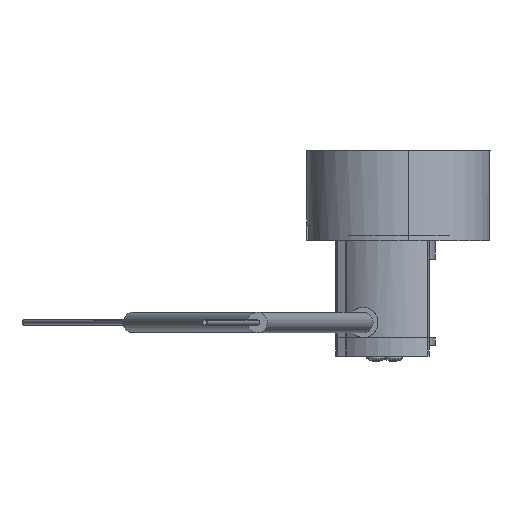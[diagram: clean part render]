
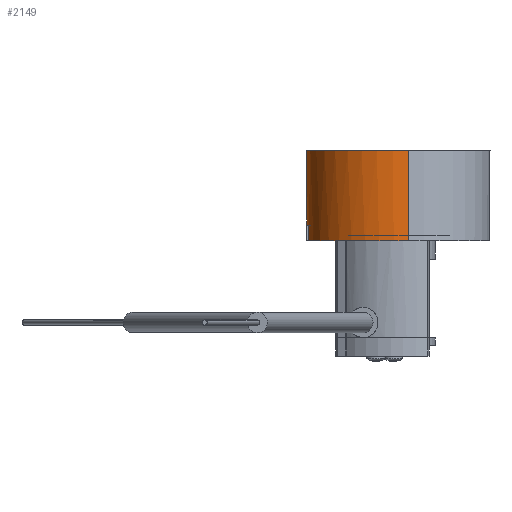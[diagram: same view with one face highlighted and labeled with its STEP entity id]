
A CAD part, left-side view. The second image highlights one B-rep face of the part: STEP entity #2149.
In plain terms, the highlighted cylindrical face has radius 17.5 mm (diameter 35 mm), a partial arc.
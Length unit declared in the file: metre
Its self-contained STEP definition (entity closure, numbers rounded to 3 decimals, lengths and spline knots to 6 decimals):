
#346 = AXIS2_PLACEMENT_3D ( 'NONE', #554, #3847, #3421 ) ;
#554 = CARTESIAN_POINT ( 'NONE',  ( 0., 0., 0. ) ) ;
#578 = CARTESIAN_POINT ( 'NONE',  ( 0., 0., 0.0142 ) ) ;
#595 = DIRECTION ( 'NONE',  ( -1., 0., 0. ) ) ;
#602 = DIRECTION ( 'NONE',  ( 0., 0., 1. ) ) ;
#643 = CARTESIAN_POINT ( 'NONE',  ( 0.0175, 0., 0. ) ) ;
#684 = CIRCLE ( 'NONE', #346, 0.0175 ) ;
#697 = CARTESIAN_POINT ( 'NONE',  ( 0., 0., 0.0172 ) ) ;
#719 = CARTESIAN_POINT ( 'NONE',  ( -0.0019, 0.017397, 0.0172 ) ) ;
#777 = VERTEX_POINT ( 'NONE', #4798 ) ;
#842 = VERTEX_POINT ( 'NONE', #719 ) ;
#905 = ORIENTED_EDGE ( 'NONE', *, *, #4023, .F. ) ;
#1187 = DIRECTION ( 'NONE',  ( 0., 0., 1. ) ) ;
#1326 = ORIENTED_EDGE ( 'NONE', *, *, #4640, .F. ) ;
#1365 = VERTEX_POINT ( 'NONE', #3466 ) ;
#1401 = VERTEX_POINT ( 'NONE', #5073 ) ;
#1413 = VECTOR ( 'NONE', #2955, 1. ) ;
#1431 = ORIENTED_EDGE ( 'NONE', *, *, #3006, .F. ) ;
#1455 = CARTESIAN_POINT ( 'NONE',  ( -0.0019, 0.017397, 0.0086 ) ) ;
#1472 = CYLINDRICAL_SURFACE ( 'NONE', #3852, 0.0175 ) ;
#1577 = AXIS2_PLACEMENT_3D ( 'NONE', #2169, #2584, #4631 ) ;
#1661 = DIRECTION ( 'NONE',  ( 0., 0., -1. ) ) ;
#1673 = LINE ( 'NONE', #2547, #1413 ) ;
#1723 = CARTESIAN_POINT ( 'NONE',  ( -0.0019, 0.017397, 0.0142 ) ) ;
#1741 = LINE ( 'NONE', #2928, #3344 ) ;
#1764 = DIRECTION ( 'NONE',  ( 0., 0., -1. ) ) ;
#1912 = VERTEX_POINT ( 'NONE', #2666 ) ;
#2051 = FACE_OUTER_BOUND ( 'NONE', #3107, .T. ) ;
#2088 = AXIS2_PLACEMENT_3D ( 'NONE', #578, #602, #3464 ) ;
#2149 = ADVANCED_FACE ( 'NONE', ( #2051 ), #1472, .T. ) ;
#2169 = CARTESIAN_POINT ( 'NONE',  ( 0., 0., 0.0172 ) ) ;
#2401 = CARTESIAN_POINT ( 'NONE',  ( 0., 0., 0.0172 ) ) ;
#2536 = VERTEX_POINT ( 'NONE', #3646 ) ;
#2547 = CARTESIAN_POINT ( 'NONE',  ( 0.0175, 0., 0.0172 ) ) ;
#2584 = DIRECTION ( 'NONE',  ( 0., 0., 1. ) ) ;
#2636 = LINE ( 'NONE', #3377, #4173 ) ;
#2666 = CARTESIAN_POINT ( 'NONE',  ( 0.0019, 0.017397, 0.0172 ) ) ;
#2928 = CARTESIAN_POINT ( 'NONE',  ( -0.0175, 0., 0.0172 ) ) ;
#2955 = DIRECTION ( 'NONE',  ( 0., 0., -1. ) ) ;
#3006 = EDGE_CURVE ( 'NONE', #1365, #4490, #3007, .T. ) ;
#3007 = CIRCLE ( 'NONE', #2088, 0.0175 ) ;
#3017 = LINE ( 'NONE', #1455, #4409 ) ;
#3107 = EDGE_LOOP ( 'NONE', ( #3488, #3738, #4644, #3538, #1326, #905, #1431, #5174 ) ) ;
#3233 = EDGE_CURVE ( 'NONE', #1401, #1912, #4866, .T. ) ;
#3344 = VECTOR ( 'NONE', #1661, 1. ) ;
#3377 = CARTESIAN_POINT ( 'NONE',  ( 0.0019, 0.017397, 0.0086 ) ) ;
#3421 = DIRECTION ( 'NONE',  ( -1., 0., 0. ) ) ;
#3464 = DIRECTION ( 'NONE',  ( -1., 0., 0. ) ) ;
#3466 = CARTESIAN_POINT ( 'NONE',  ( 0.0019, 0.017397, 0.0142 ) ) ;
#3488 = ORIENTED_EDGE ( 'NONE', *, *, #3233, .F. ) ;
#3530 = EDGE_CURVE ( 'NONE', #2536, #777, #1741, .T. ) ;
#3538 = ORIENTED_EDGE ( 'NONE', *, *, #3530, .F. ) ;
#3646 = CARTESIAN_POINT ( 'NONE',  ( -0.0175, 0., 0.0172 ) ) ;
#3689 = EDGE_CURVE ( 'NONE', #1401, #5150, #1673, .T. ) ;
#3722 = AXIS2_PLACEMENT_3D ( 'NONE', #2401, #1187, #4046 ) ;
#3738 = ORIENTED_EDGE ( 'NONE', *, *, #3689, .T. ) ;
#3847 = DIRECTION ( 'NONE',  ( 0., 0., 1. ) ) ;
#3852 = AXIS2_PLACEMENT_3D ( 'NONE', #697, #5234, #595 ) ;
#4023 = EDGE_CURVE ( 'NONE', #4490, #842, #3017, .T. ) ;
#4046 = DIRECTION ( 'NONE',  ( -1., 0., 0. ) ) ;
#4173 = VECTOR ( 'NONE', #1764, 1. ) ;
#4409 = VECTOR ( 'NONE', #5102, 1. ) ;
#4490 = VERTEX_POINT ( 'NONE', #1723 ) ;
#4631 = DIRECTION ( 'NONE',  ( -1., 0., 0. ) ) ;
#4640 = EDGE_CURVE ( 'NONE', #842, #2536, #4673, .T. ) ;
#4644 = ORIENTED_EDGE ( 'NONE', *, *, #4681, .T. ) ;
#4658 = EDGE_CURVE ( 'NONE', #1912, #1365, #2636, .T. ) ;
#4673 = CIRCLE ( 'NONE', #1577, 0.0175 ) ;
#4681 = EDGE_CURVE ( 'NONE', #5150, #777, #684, .T. ) ;
#4798 = CARTESIAN_POINT ( 'NONE',  ( -0.0175, 0., 0. ) ) ;
#4866 = CIRCLE ( 'NONE', #3722, 0.0175 ) ;
#5073 = CARTESIAN_POINT ( 'NONE',  ( 0.0175, 0., 0.0172 ) ) ;
#5102 = DIRECTION ( 'NONE',  ( 0., 0., 1. ) ) ;
#5150 = VERTEX_POINT ( 'NONE', #643 ) ;
#5174 = ORIENTED_EDGE ( 'NONE', *, *, #4658, .F. ) ;
#5234 = DIRECTION ( 'NONE',  ( 0., 0., -1. ) ) ;
